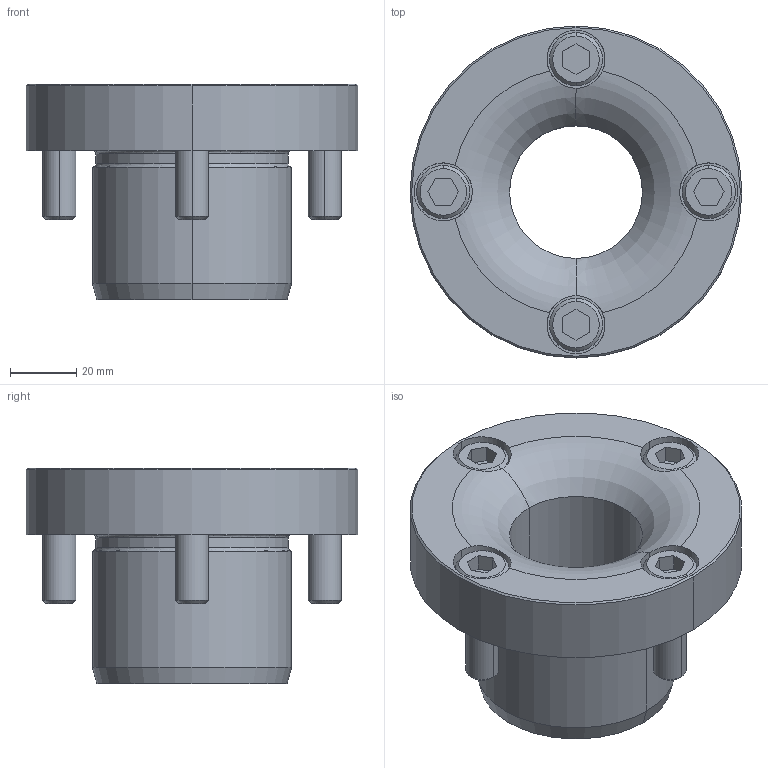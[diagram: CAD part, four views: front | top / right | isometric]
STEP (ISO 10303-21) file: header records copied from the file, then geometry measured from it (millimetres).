
FILE_DESCRIPTION((''),'2;1');
FILE_NAME('','2010-09-07T13:55:30+09:00',('misumi'),(''),'M/STEP i/f 1R2-14','CADmeister v5.1','');
FILE_SCHEMA(('AUTOMOTIVE_DESIGN'));
Length unit declared in the file: millimetre
Products named in the file (1): HGBF40
Bounding box: 100 x 100 x 65 mm (x, y, z)
Volume: 195627.6 mm3; surface area: 45692.2 mm2
Topology: 5 solids, 5 shells, 115 faces, 260 edges, 164 vertices
Faces by surface type: plane 47, cylinder 40, cone 20, revolution 8
Entity records: 3477 total; most frequent: CARTESIAN_POINT 616, DIRECTION 616, ORIENTED_EDGE 512, EDGE_CURVE 256, AXIS2_PLACEMENT_3D 238, VERTEX_POINT 160, EDGE_LOOP 134, LINE 132
